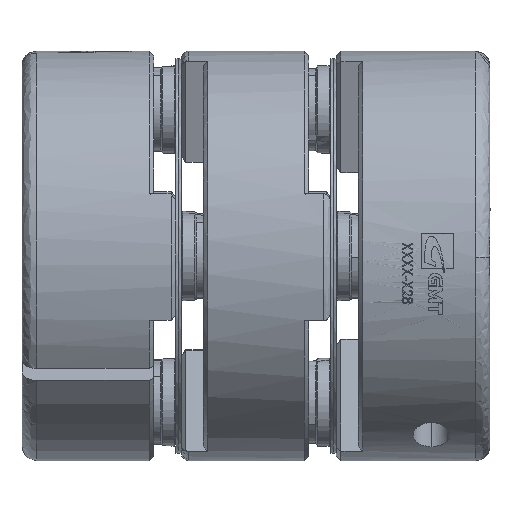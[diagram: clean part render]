
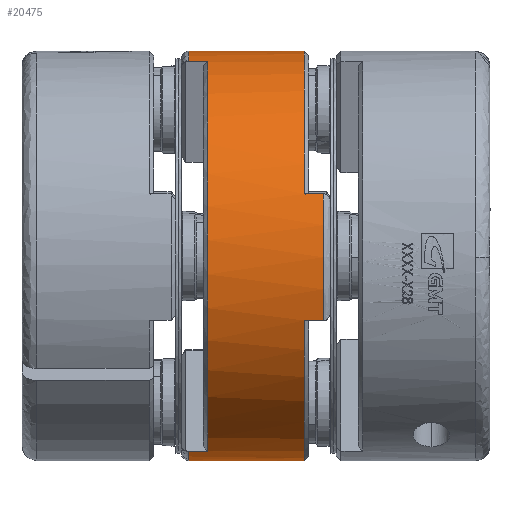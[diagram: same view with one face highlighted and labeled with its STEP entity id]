
A CAD part, left-side view. The second image highlights one B-rep face of the part: STEP entity #20475.
In plain terms, the highlighted cylindrical face has radius 14 mm (diameter 28 mm), a partial arc.
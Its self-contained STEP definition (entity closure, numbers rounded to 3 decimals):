
#20398 = VERTEX_POINT ( 'NONE', #24412 ) ;
#20411 = EDGE_CURVE ( 'NONE', #20564, #20398, #24440, .T. ) ;
#20412 = ORIENTED_EDGE ( 'NONE', *, *, #20421, .T. ) ;
#20416 = EDGE_LOOP ( 'NONE', ( #20412, #20536, #20561, #20535, #20566, #20565, #20420, #20439, #20539, #20487, #20422, #20444 ) ) ;
#20417 = VERTEX_POINT ( 'NONE', #24433 ) ;
#20420 = ORIENTED_EDGE ( 'NONE', *, *, #20411, .T. ) ;
#20421 = EDGE_CURVE ( 'NONE', #20473, #20474, #24467, .T. ) ;
#20422 = ORIENTED_EDGE ( 'NONE', *, *, #20423, .T. ) ;
#20423 = EDGE_CURVE ( 'NONE', #20417, #20424, #24462, .T. ) ;
#20424 = VERTEX_POINT ( 'NONE', #24520 ) ;
#20439 = ORIENTED_EDGE ( 'NONE', *, *, #20440, .T. ) ;
#20440 = EDGE_CURVE ( 'NONE', #20398, #20538, #24517, .T. ) ;
#20444 = ORIENTED_EDGE ( 'NONE', *, *, #20445, .F. ) ;
#20445 = EDGE_CURVE ( 'NONE', #20473, #20424, #24504, .T. ) ;
#20473 = VERTEX_POINT ( 'NONE', #24562 ) ;
#20474 = VERTEX_POINT ( 'NONE', #24561 ) ;
#20475 = ADVANCED_FACE ( 'NONE', ( #24560 ), #24620, .T. ) ;
#20487 = ORIENTED_EDGE ( 'NONE', *, *, #20488, .F. ) ;
#20488 = EDGE_CURVE ( 'NONE', #20417, #20490, #24601, .T. ) ;
#20489 = EDGE_CURVE ( 'NONE', #20490, #20538, #24596, .T. ) ;
#20490 = VERTEX_POINT ( 'NONE', #24597 ) ;
#20535 = ORIENTED_EDGE ( 'NONE', *, *, #20542, .F. ) ;
#20536 = ORIENTED_EDGE ( 'NONE', *, *, #20540, .T. ) ;
#20537 = VERTEX_POINT ( 'NONE', #24701 ) ;
#20538 = VERTEX_POINT ( 'NONE', #24700 ) ;
#20539 = ORIENTED_EDGE ( 'NONE', *, *, #20489, .F. ) ;
#20540 = EDGE_CURVE ( 'NONE', #20474, #20541, #24699, .T. ) ;
#20541 = VERTEX_POINT ( 'NONE', #24695 ) ;
#20542 = EDGE_CURVE ( 'NONE', #20543, #20560, #24694, .T. ) ;
#20543 = VERTEX_POINT ( 'NONE', #24690 ) ;
#20560 = VERTEX_POINT ( 'NONE', #24722 ) ;
#20561 = ORIENTED_EDGE ( 'NONE', *, *, #20562, .T. ) ;
#20562 = EDGE_CURVE ( 'NONE', #20541, #20560, #24751, .T. ) ;
#20563 = EDGE_CURVE ( 'NONE', #20564, #20537, #24746, .T. ) ;
#20564 = VERTEX_POINT ( 'NONE', #24742 ) ;
#20565 = ORIENTED_EDGE ( 'NONE', *, *, #20563, .F. ) ;
#20566 = ORIENTED_EDGE ( 'NONE', *, *, #20567, .T. ) ;
#20567 = EDGE_CURVE ( 'NONE', #20543, #20537, #24802, .T. ) ;
#24412 = CARTESIAN_POINT ( 'NONE',  ( -6.202, -8.113, 16.087 ) ) ;
#24433 = CARTESIAN_POINT ( 'NONE',  ( -10.524, -1.513, 15.375 ) ) ;
#24436 = DIRECTION ( 'NONE',  ( 0., 0., -1. ) ) ;
#24437 = DIRECTION ( 'NONE',  ( 0., 1., 0. ) ) ;
#24438 = CARTESIAN_POINT ( 'NONE',  ( -6.114, -8.113, 2.088 ) ) ;
#24439 = AXIS2_PLACEMENT_3D ( 'NONE', #24438, #24437, #24436 ) ;
#24440 = CIRCLE ( 'NONE', #24439, 14. ) ;
#24462 = CIRCLE ( 'NONE', #24524, 14. ) ;
#24463 = DIRECTION ( 'NONE',  ( 0., 0., -1. ) ) ;
#24464 = DIRECTION ( 'NONE',  ( 0., -1., 0. ) ) ;
#24465 = CARTESIAN_POINT ( 'NONE',  ( -6.114, -0.213, 2.088 ) ) ;
#24466 = AXIS2_PLACEMENT_3D ( 'NONE', #24465, #24464, #24463 ) ;
#24467 = CIRCLE ( 'NONE', #24466, 14. ) ;
#24501 = DIRECTION ( 'NONE',  ( 0., -1., 0. ) ) ;
#24502 = VECTOR ( 'NONE', #24501, 1000. ) ;
#24503 = CARTESIAN_POINT ( 'NONE',  ( -10.357, -1.213, -11.254 ) ) ;
#24504 = LINE ( 'NONE', #24503, #24502 ) ;
#24510 = DIRECTION ( 'NONE',  ( 0., 1., 0. ) ) ;
#24511 = VECTOR ( 'NONE', #24510, 1000. ) ;
#24512 = CARTESIAN_POINT ( 'NONE',  ( -6.202, 0.287, 16.087 ) ) ;
#24517 = LINE ( 'NONE', #24512, #24511 ) ;
#24520 = CARTESIAN_POINT ( 'NONE',  ( -10.357, -1.513, -11.254 ) ) ;
#24521 = DIRECTION ( 'NONE',  ( 0., 0., -1. ) ) ;
#24522 = DIRECTION ( 'NONE',  ( 0., -1., 0. ) ) ;
#24523 = CARTESIAN_POINT ( 'NONE',  ( -6.114, -1.513, 2.088 ) ) ;
#24524 = AXIS2_PLACEMENT_3D ( 'NONE', #24523, #24522, #24521 ) ;
#24559 = CARTESIAN_POINT ( 'NONE',  ( -6.114, 0.287, 2.088 ) ) ;
#24560 = FACE_OUTER_BOUND ( 'NONE', #20416, .T. ) ;
#24561 = CARTESIAN_POINT ( 'NONE',  ( -6.114, -0.213, -11.912 ) ) ;
#24562 = CARTESIAN_POINT ( 'NONE',  ( -10.357, -0.213, -11.254 ) ) ;
#24592 = DIRECTION ( 'NONE',  ( -0.006, 0., 1. ) ) ;
#24593 = DIRECTION ( 'NONE',  ( 0., 1., 0. ) ) ;
#24594 = CARTESIAN_POINT ( 'NONE',  ( -6.114, -0.213, 2.088 ) ) ;
#24595 = AXIS2_PLACEMENT_3D ( 'NONE', #24594, #24593, #24592 ) ;
#24596 = CIRCLE ( 'NONE', #24595, 14. ) ;
#24597 = CARTESIAN_POINT ( 'NONE',  ( -10.524, -0.213, 15.375 ) ) ;
#24598 = DIRECTION ( 'NONE',  ( 0., 1., 0. ) ) ;
#24599 = VECTOR ( 'NONE', #24598, 1000. ) ;
#24600 = CARTESIAN_POINT ( 'NONE',  ( -10.524, -1.213, 15.375 ) ) ;
#24601 = LINE ( 'NONE', #24600, #24599 ) ;
#24617 = DIRECTION ( 'NONE',  ( 0., 0., -1. ) ) ;
#24618 = DIRECTION ( 'NONE',  ( 0., -1., 0. ) ) ;
#24619 = AXIS2_PLACEMENT_3D ( 'NONE', #24559, #24618, #24617 ) ;
#24620 = CYLINDRICAL_SURFACE ( 'NONE', #24619, 14. ) ;
#24690 = CARTESIAN_POINT ( 'NONE',  ( -19.402, -9.413, -2.322 ) ) ;
#24691 = DIRECTION ( 'NONE',  ( 0., 1., 0. ) ) ;
#24692 = VECTOR ( 'NONE', #24691, 1000. ) ;
#24693 = CARTESIAN_POINT ( 'NONE',  ( -19.402, -8.413, -2.322 ) ) ;
#24694 = LINE ( 'NONE', #24693, #24692 ) ;
#24695 = CARTESIAN_POINT ( 'NONE',  ( -6.114, -8.113, -11.912 ) ) ;
#24696 = DIRECTION ( 'NONE',  ( 0., -1., 0. ) ) ;
#24697 = VECTOR ( 'NONE', #24696, 1000. ) ;
#24698 = CARTESIAN_POINT ( 'NONE',  ( -6.114, 0.287, -11.912 ) ) ;
#24699 = LINE ( 'NONE', #24698, #24697 ) ;
#24700 = CARTESIAN_POINT ( 'NONE',  ( -6.202, -0.213, 16.087 ) ) ;
#24701 = CARTESIAN_POINT ( 'NONE',  ( -19.456, -9.413, 6.33 ) ) ;
#24722 = CARTESIAN_POINT ( 'NONE',  ( -19.402, -8.113, -2.322 ) ) ;
#24742 = CARTESIAN_POINT ( 'NONE',  ( -19.456, -8.113, 6.33 ) ) ;
#24743 = DIRECTION ( 'NONE',  ( 0., -1., 0. ) ) ;
#24744 = VECTOR ( 'NONE', #24743, 1000. ) ;
#24745 = CARTESIAN_POINT ( 'NONE',  ( -19.456, -8.413, 6.33 ) ) ;
#24746 = LINE ( 'NONE', #24745, #24744 ) ;
#24747 = DIRECTION ( 'NONE',  ( 0., 0., -1. ) ) ;
#24748 = DIRECTION ( 'NONE',  ( 0., 1., 0. ) ) ;
#24749 = CARTESIAN_POINT ( 'NONE',  ( -6.114, -8.113, 2.088 ) ) ;
#24750 = AXIS2_PLACEMENT_3D ( 'NONE', #24749, #24748, #24747 ) ;
#24751 = CIRCLE ( 'NONE', #24750, 14. ) ;
#24798 = DIRECTION ( 'NONE',  ( 0., 0., -1. ) ) ;
#24799 = DIRECTION ( 'NONE',  ( 0., 1., 0. ) ) ;
#24800 = CARTESIAN_POINT ( 'NONE',  ( -6.114, -9.413, 2.088 ) ) ;
#24801 = AXIS2_PLACEMENT_3D ( 'NONE', #24800, #24799, #24798 ) ;
#24802 = CIRCLE ( 'NONE', #24801, 14. ) ;
